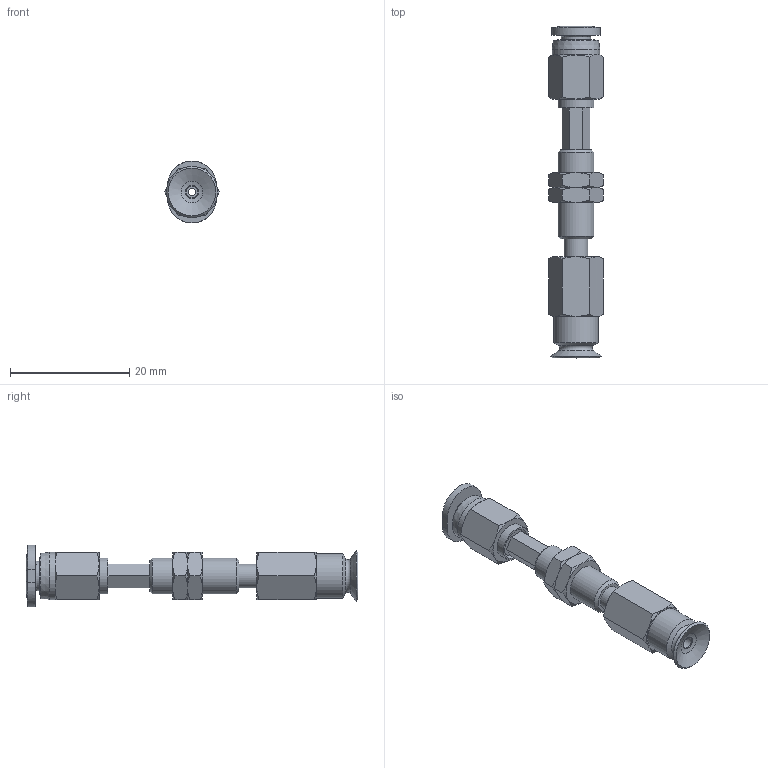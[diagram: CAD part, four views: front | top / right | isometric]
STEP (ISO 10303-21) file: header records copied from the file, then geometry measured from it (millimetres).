
FILE_DESCRIPTION(('STEP AP203'),'1');
FILE_NAME('-O.stp','2025-08-27T05:41:33',(' '),(' '),'Spatial InterOp 3D',' ',' ');
FILE_SCHEMA(('CONFIG_CONTROL_DESIGN'));
Length unit declared in the file: millimetre
Products named in the file (7): BNABPFTS-8A-3-※-O; ADAPTER; NAPCTS-7-3-MBODY; Nut-8A-3-s; NAPFTS-8A-3-FBODY; BPFG-8A-※; PC-C_04-M3
Assembly tree (7 placements, depth 2):
  BNABPFTS-8A-3-※-O
    ADAPTER
    NAPCTS-7-3-MBODY
    Nut-8A-3-s  x2
    NAPFTS-8A-3-FBODY
    BPFG-8A-※
    PC-C_04-M3
Bounding box: 9.24 x 55.77 x 10.4 mm (x, y, z)
Volume: 1468 mm3; surface area: 2931.1 mm2
Topology: 6 solids, 8 shells, 168 faces, 346 edges, 205 vertices
Faces by surface type: cone 64, plane 63, cylinder 23, torus 10, bspline 5, revolution 3
Full cylindrical faces by diameter (mm): 1.2 x2, 2 x1, 2.459 x1, 2.5 x2, 3 x1, 4 x4, 4.9 x1, 5.188 x2, 6 x4, 6.1 x1, 7.5 x1, 8 x1
Entity records: 4223 total; most frequent: CARTESIAN_POINT 1154, DIRECTION 571, ORIENTED_EDGE 484, AXIS2_PLACEMENT_3D 257, EDGE_CURVE 243, EDGE_LOOP 213, VERTEX_POINT 168, FACE_OUTER_BOUND 116
